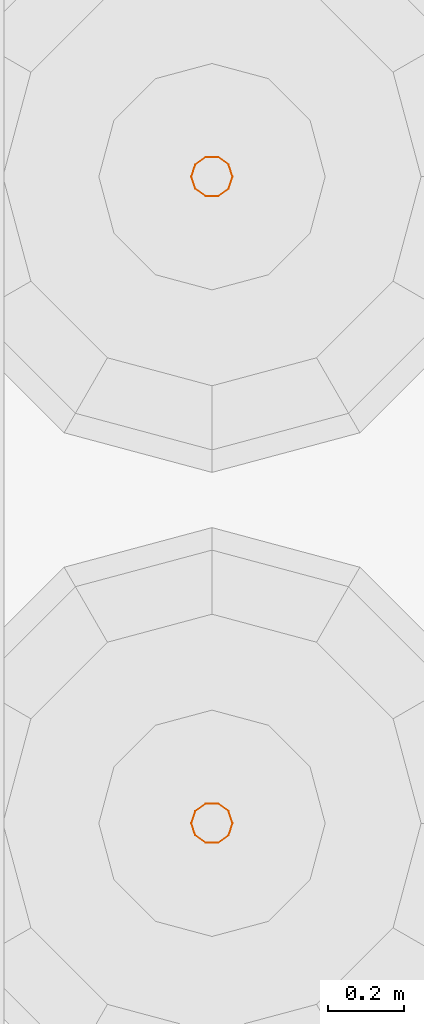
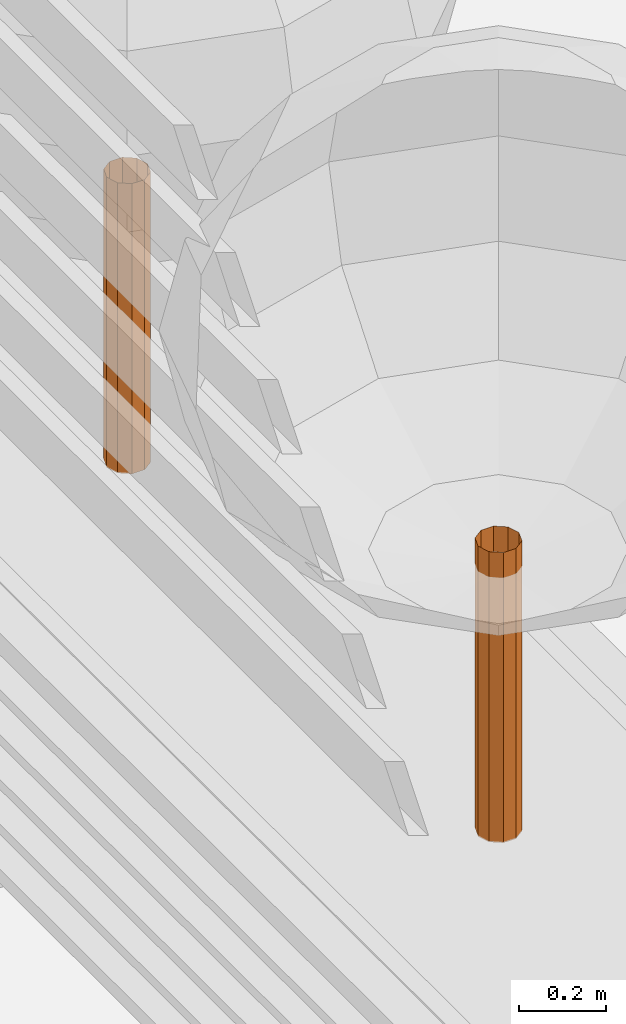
# One storey, part 164 of 166: 2 proxies.
"""IFC2X3 building model written with IfcOpenShell, lengths in metres."""

from ifc_helpers import new_model, si_unit, origin, origin_with_axes, place, context, subcontext, project, spatial, faceted_brep, element, save


model = new_model("IFC2X3")

# Units and contexts
model_context = context("Model", 3, precision=1e-05, world=origin_with_axes())
body_context = subcontext(model_context, "Body", "Model", "MODEL_VIEW")
ifc_project = project(units=[si_unit("LENGTHUNIT", "METRE"), si_unit("AREAUNIT", "SQUARE_METRE"), si_unit("VOLUMEUNIT", "CUBIC_METRE"), si_unit("PLANEANGLEUNIT", "RADIAN")], contexts=[model_context])

# Site, building, storey
site_placement = place(None, origin_with_axes())
site = spatial("IfcSite", under=ifc_project, at=site_placement, Name="Predio Los Mangos - Morales, San Martín", CompositionType="ELEMENT")
building_placement = place(site_placement, origin())
building = spatial("IfcBuilding", under=site, at=building_placement, Name="Hogar de Refugio Temporal", CompositionType="ELEMENT")
storey_placement = place(building_placement, origin())
storey = spatial("IfcBuildingStorey", under=building, at=storey_placement, Name="NIVEL 1 (NPT +0.00)", CompositionType="ELEMENT", Elevation=0.0)

# Proxies
proxy_1_placement = place(storey_placement, origin())
element("IfcBuildingElementProxy", 1, at=proxy_1_placement, inside=storey, Name="arbol_tronco", ObjectType="Árbol", context=body_context, shape_type="Brep", body=[
    faceted_brep([(38.4544, 39.245, 0.45), (38.444, 39.277, 0.45), (38.444, 39.277, 1.266), (38.4168, 39.2967, 0.45), (38.4168, 39.2967, 1.266), (38.3832, 39.2967, 0.45), (38.3832, 39.2967, 1.266), (38.356, 39.277, 0.45), (38.356, 39.277, 1.266), (38.3456, 39.245, 0.45), (38.3456, 39.245, 1.266), (38.356, 39.213, 0.45), (38.356, 39.213, 1.266), (38.3832, 39.1933, 0.45), (38.3832, 39.1933, 1.266), (38.4168, 39.1933, 0.45), (38.4168, 39.1933, 1.266), (38.444, 39.213, 0.45), (38.444, 39.213, 1.266), (38.4544, 39.245, 1.266)], [[[0, 1, 2]], [[1, 3, 4]], [[3, 5, 6]], [[5, 7, 8]], [[7, 9, 10]], [[9, 11, 12]], [[11, 13, 14]], [[13, 15, 16]], [[15, 17, 18]], [[17, 0, 19]], [[0, 2, 19]], [[1, 4, 2]], [[3, 6, 4]], [[5, 8, 6]], [[7, 10, 8]], [[9, 12, 10]], [[11, 14, 12]], [[13, 16, 14]], [[15, 18, 16]], [[17, 19, 18]]]),
])
proxy_2_placement = place(storey_placement, origin())
element("IfcBuildingElementProxy", 2, at=proxy_2_placement, inside=storey, Name="arbol_tronco", ObjectType="Árbol", context=body_context, shape_type="Brep", body=[
    faceted_brep([(38.4544, 40.955, 0.45), (38.444, 40.987, 0.45), (38.444, 40.987, 1.266), (38.4168, 41.0067, 0.45), (38.4168, 41.0067, 1.266), (38.3832, 41.0067, 0.45), (38.3832, 41.0067, 1.266), (38.356, 40.987, 0.45), (38.356, 40.987, 1.266), (38.3456, 40.955, 0.45), (38.3456, 40.955, 1.266), (38.356, 40.923, 0.45), (38.356, 40.923, 1.266), (38.3832, 40.9033, 0.45), (38.3832, 40.9033, 1.266), (38.4168, 40.9033, 0.45), (38.4168, 40.9033, 1.266), (38.444, 40.923, 0.45), (38.444, 40.923, 1.266), (38.4544, 40.955, 1.266)], [[[0, 1, 2]], [[1, 3, 4]], [[3, 5, 6]], [[5, 7, 8]], [[7, 9, 10]], [[9, 11, 12]], [[11, 13, 14]], [[13, 15, 16]], [[15, 17, 18]], [[17, 0, 19]], [[0, 2, 19]], [[1, 4, 2]], [[3, 6, 4]], [[5, 8, 6]], [[7, 10, 8]], [[9, 12, 10]], [[11, 14, 12]], [[13, 16, 14]], [[15, 18, 16]], [[17, 19, 18]]]),
])

save(model, "model.ifc")
